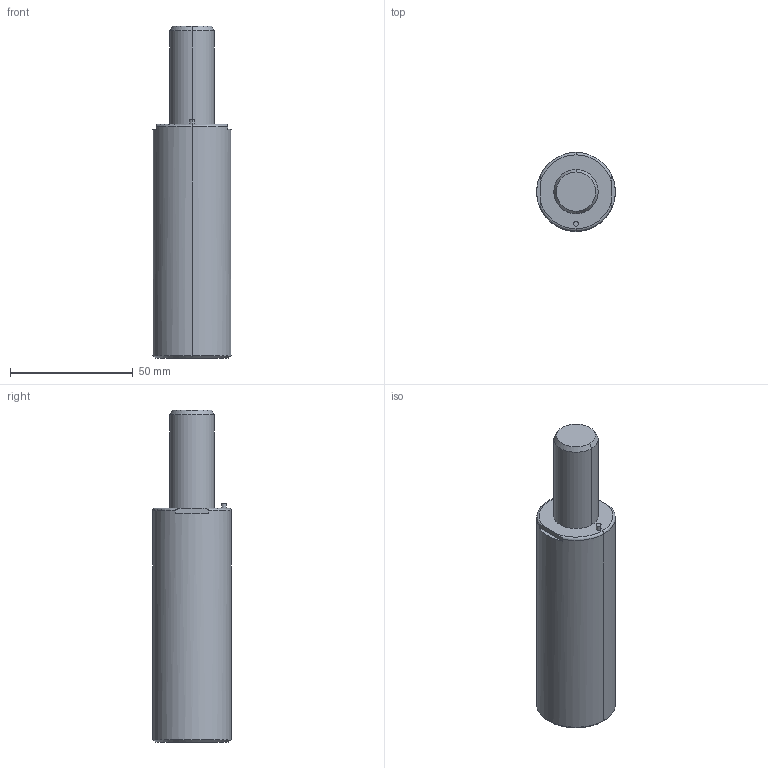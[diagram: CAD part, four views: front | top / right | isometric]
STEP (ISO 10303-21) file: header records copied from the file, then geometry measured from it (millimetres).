
FILE_DESCRIPTION(/* description */ (''),/* implementation_level */ '2;1');
FILE_NAME(/* name */ '3d_gsx32-38_03994_r00.stp',/* time_stamp */ '2011-01-10T14:15:14+09:00',/* author */ ('MISUMI'),/* organization */ (''),/* preprocessor_version */ 'ST-DEVELOPER v11',/* originating_system */ 'UGS - NX 5.0',/* authorisation */ '');
FILE_SCHEMA (('CONFIG_CONTROL_DESIGN'));
Length unit declared in the file: millimetre
Products named in the file (1): 3d_gsx32-38_03994_r00
Bounding box: 32 x 32 x 135 mm (x, y, z)
Volume: 85142 mm3; surface area: 14174.8 mm2
Topology: 1 solids, 1 shells, 45 faces, 98 edges, 60 vertices
Faces by surface type: cylinder 20, plane 13, cone 8, torus 4
Entity records: 1324 total; most frequent: DIRECTION 236, CARTESIAN_POINT 228, ORIENTED_EDGE 188, AXIS2_PLACEMENT_3D 100, EDGE_CURVE 94, VERTEX_POINT 60, EDGE_LOOP 54, CIRCLE 54
